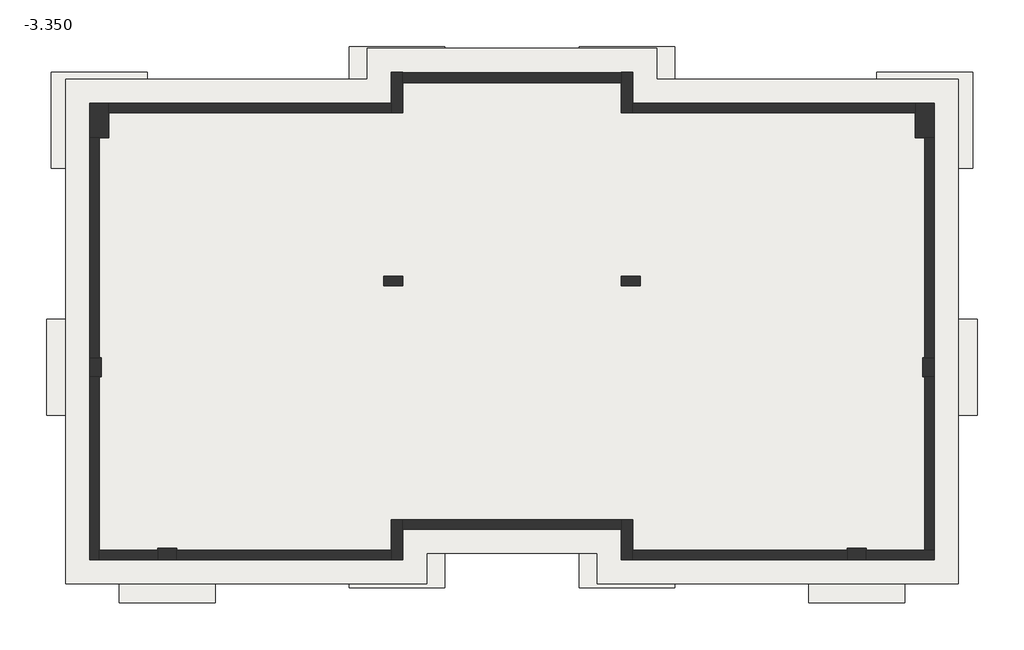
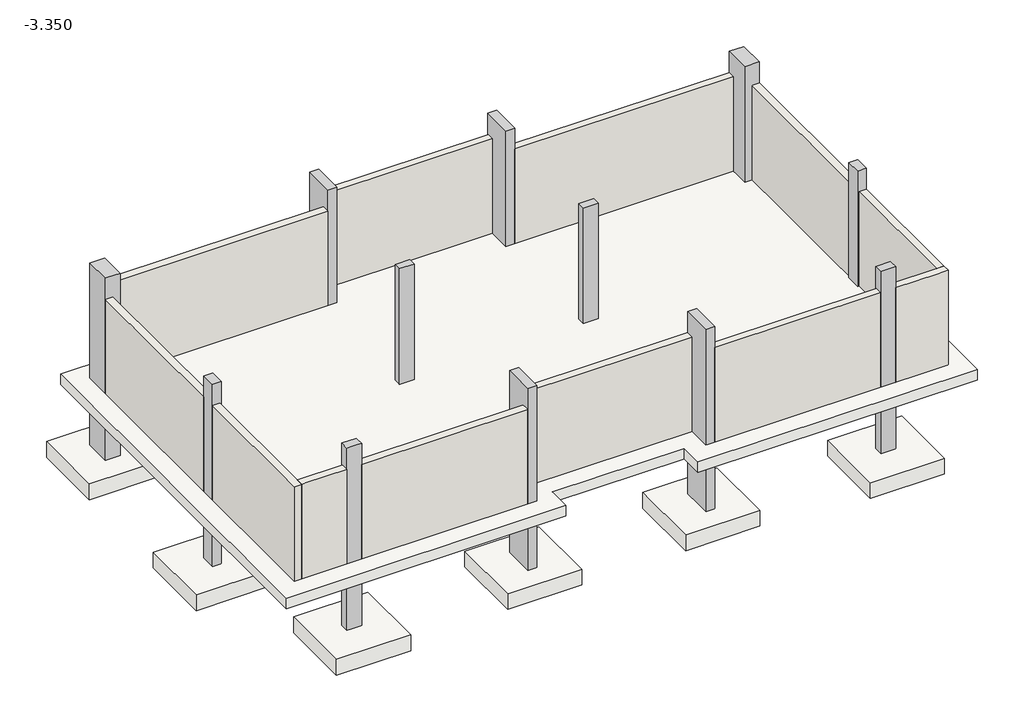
# One storey: 13 slabs, 12 columns, 12 walls.
"""IFC4 building model written with IfcOpenShell, lengths in millimetres."""

from ifc_helpers import new_model, si_unit, frame, origin, place, context, project, spatial, polyline, outline, extrude, faceted_brep, transform, mapped, element, save
from components import slab_2000mm_x_2000mm_x_450mm_d551b5b0

model = new_model("IFC4")

# Units and contexts
model_context = context("Model", 3, world=origin())
ifc_project = project(units=[si_unit("LENGTHUNIT", "METRE", prefix="MILLI")], contexts=[model_context])

# Site, building, storey
site = spatial("IfcSite", under=ifc_project)
building = spatial("IfcBuilding", under=site)
storey = spatial("IfcBuildingStorey", under=building, Name="-3.350", Elevation=-3350.0)

# Columns
placement = place(None, origin())
element("IfcColumn", 1, ObjectType="混凝土 - 矩形 - 柱 : 200 x 400mm", at=placement, inside=storey, context=model_context, shape_type="SweptSolid", body=[
    extrude(outline(polyline([(-7298.804129, 1980.2421091), (-6898.804129, 1980.2421091), (-6898.804129, 1780.2421091), (-7298.804129, 1780.2421091), (-7298.804129, 1980.2421091)])), frame((0.0, 0.0, -5250.0), z_axis=(0.0, 0.0, 1.0), x_axis=(1.0, 0.0, 0.0)), (0.0, 0.0, 1.0), 1600.0),
    extrude(outline(polyline([(-7298.804129, 1980.2421091), (-6898.804129, 1980.2421091), (-6898.804129, 1780.2421091), (-7298.804129, 1780.2421091), (-7298.804129, 1980.2421091)])), frame((0.0, 0.0, -3350.0), z_axis=(0.0, 0.0, 1.0), x_axis=(1.0, 0.0, 0.0)), (0.0, 0.0, 1.0), 3300.0),
])
element("IfcColumn", 2, ObjectType="混凝土 - 矩形 - 柱 : 200 x 400mm", at=placement, inside=storey, context=model_context, shape_type="SweptSolid", body=[
    extrude(outline(polyline([(-2338.804129, 1980.2421091), (-1938.804129, 1980.2421091), (-1938.804129, 1780.2421091), (-2338.804129, 1780.2421091), (-2338.804129, 1980.2421091)])), frame((0.0, 0.0, -5250.0), z_axis=(0.0, 0.0, 1.0), x_axis=(1.0, 0.0, 0.0)), (0.0, 0.0, 1.0), 1600.0),
    extrude(outline(polyline([(-2338.804129, 1980.2421091), (-1938.804129, 1980.2421091), (-1938.804129, 1780.2421091), (-2338.804129, 1780.2421091), (-2338.804129, 1980.2421091)])), frame((0.0, 0.0, -3350.0), z_axis=(0.0, 0.0, 1.0), x_axis=(1.0, 0.0, 0.0)), (0.0, 0.0, 1.0), 3300.0),
])
element("IfcColumn", 3, ObjectType="混凝土 - 矩形 - 柱 : 240 x 400mm", at=placement, inside=storey, context=model_context, shape_type="Brep", body=[
    faceted_brep([(-13198.804129, 280.2421091, -5250.0), (-13198.804129, -119.7578909, -5250.0), (-13438.804129, -119.7578909, -5250.0), (-13438.804129, 280.2421091, -5250.0), (-13198.804129, -119.7578909, -3650.0), (-13198.804129, 280.2421091, -3650.0), (-13438.804129, 280.2421091, -3650.0), (-13438.804129, -119.7578909, -3650.0)], [[[0, 1, 2, 3]], [[4, 5, 6, 7]], [[1, 0, 5, 4]], [[2, 1, 4, 7]], [[3, 2, 7, 6]], [[0, 3, 6, 5]]]),
    faceted_brep([(-13198.804129, 280.2421091, -50.0), (-13198.804129, -119.7578909, -50.0), (-13198.804129, -119.7578909, -3350.0), (-13198.804129, 280.2421091, -3350.0), (-13438.804129, -119.7578909, -50.0), (-13438.804129, -119.7578909, -650.0), (-13438.804129, -119.7578909, -3350.0), (-13238.804129, -119.7578909, -3350.0), (-13438.804129, 280.2421091, -50.0), (-13438.804129, 280.2421091, -650.0), (-13438.804129, 280.2421091, -3350.0), (-13238.804129, 280.2421091, -3350.0)], [[[0, 1, 2, 3]], [[1, 4, 5, 6, 7, 2]], [[4, 8, 9, 10, 6, 5]], [[8, 0, 3, 11, 10, 9]], [[4, 1, 0, 8]], [[3, 2, 7, 6, 10, 11]]]),
])
element("IfcColumn", 4, ObjectType="混凝土 - 矩形 - 柱 : 240 x 400mm", at=placement, inside=storey, context=model_context, shape_type="Brep", body=[
    faceted_brep([(4201.195871, 280.2421091, -5250.0), (4201.195871, -119.7578909, -5250.0), (3961.195871, -119.7578909, -5250.0), (3961.195871, 280.2421091, -5250.0), (4201.195871, -119.7578909, -3650.0), (4201.195871, 280.2421091, -3650.0), (3961.195871, 280.2421091, -3650.0), (3961.195871, -119.7578909, -3650.0)], [[[0, 1, 2, 3]], [[4, 5, 6, 7]], [[1, 0, 5, 4]], [[2, 1, 4, 7]], [[3, 2, 7, 6]], [[0, 3, 6, 5]]]),
    faceted_brep([(4201.195871, 280.2421091, -50.0), (4201.195871, -119.7578909, -50.0), (4201.195871, -119.7578909, -650.0), (4201.195871, -119.7578909, -3350.0), (4201.195871, 280.2421091, -3350.0), (4201.195871, 280.2421091, -650.0), (3961.195871, -119.7578909, -50.0), (3961.195871, -119.7578909, -3350.0), (4001.195871, -119.7578909, -3350.0), (3961.195871, 280.2421091, -50.0), (3961.195871, 280.2421091, -3350.0), (4001.195871, 280.2421091, -3350.0)], [[[0, 1, 2, 3, 4, 5]], [[1, 6, 7, 8, 3, 2]], [[6, 9, 10, 7]], [[9, 0, 5, 4, 11, 10]], [[6, 1, 0, 9]], [[4, 3, 8, 7, 10, 11]]]),
])
element("IfcColumn", 5, ObjectType="混凝土 - 矩形 - 柱 : 240 x 400mm", at=placement, inside=storey, context=model_context, shape_type="Brep", body=[
    faceted_brep([(-12018.804129, -3699.7578909, -5250.0), (-11618.804129, -3699.7578909, -5250.0), (-11618.804129, -3939.7578909, -5250.0), (-12018.804129, -3939.7578909, -5250.0), (-11618.804129, -3699.7578909, -3650.0), (-12018.804129, -3699.7578909, -3650.0), (-12018.804129, -3939.7578909, -3650.0), (-11618.804129, -3939.7578909, -3650.0)], [[[0, 1, 2, 3]], [[4, 5, 6, 7]], [[1, 0, 5, 4]], [[2, 1, 4, 7]], [[3, 2, 7, 6]], [[0, 3, 6, 5]]]),
    faceted_brep([(-12018.804129, -3699.7578909, -50.0), (-11618.804129, -3699.7578909, -50.0), (-11618.804129, -3699.7578909, -3350.0), (-12018.804129, -3699.7578909, -3350.0), (-11618.804129, -3939.7578909, -50.0), (-11618.804129, -3939.7578909, -650.0), (-11618.804129, -3939.7578909, -3350.0), (-11618.804129, -3739.7578909, -3350.0), (-11718.804129, -3939.7578909, -50.0), (-11918.804129, -3939.7578909, -50.0), (-12018.804129, -3939.7578909, -50.0), (-12018.804129, -3939.7578909, -650.0), (-12018.804129, -3939.7578909, -3350.0), (-12018.804129, -3739.7578909, -3350.0)], [[[0, 1, 2, 3]], [[1, 4, 5, 6, 7, 2]], [[4, 8, 9, 10, 11, 12, 6, 5]], [[10, 0, 3, 13, 12, 11]], [[1, 0, 10, 9, 8, 4]], [[3, 2, 7, 6, 12, 13]]]),
])
element("IfcColumn", 6, ObjectType="混凝土 - 矩形 - 柱 : 240 x 400mm", at=placement, inside=storey, context=model_context, shape_type="Brep", body=[
    faceted_brep([(2381.195871, -3699.7578909, -5250.0), (2781.195871, -3699.7578909, -5250.0), (2781.195871, -3939.7578909, -5250.0), (2381.195871, -3939.7578909, -5250.0), (2781.195871, -3699.7578909, -3650.0), (2381.195871, -3699.7578909, -3650.0), (2381.195871, -3939.7578909, -3650.0), (2781.195871, -3939.7578909, -3650.0)], [[[0, 1, 2, 3]], [[4, 5, 6, 7]], [[1, 0, 5, 4]], [[2, 1, 4, 7]], [[3, 2, 7, 6]], [[0, 3, 6, 5]]]),
    faceted_brep([(2381.195871, -3699.7578909, -50.0), (2781.195871, -3699.7578909, -50.0), (2781.195871, -3699.7578909, -3350.0), (2381.195871, -3699.7578909, -3350.0), (2781.195871, -3939.7578909, -50.0), (2781.195871, -3939.7578909, -650.0), (2781.195871, -3939.7578909, -3350.0), (2781.195871, -3739.7578909, -3350.0), (2381.195871, -3939.7578909, -50.0), (2381.195871, -3939.7578909, -650.0), (2381.195871, -3939.7578909, -3350.0), (2381.195871, -3739.7578909, -3350.0)], [[[0, 1, 2, 3]], [[1, 4, 5, 6, 7, 2]], [[4, 8, 9, 10, 6, 5]], [[8, 0, 3, 11, 10, 9]], [[1, 0, 8, 4]], [[3, 2, 7, 6, 10, 11]]]),
])
element("IfcColumn", 7, ObjectType="混凝土 - 矩形 - 柱 : 240 x 840mm", at=placement, inside=storey, context=model_context, shape_type="Brep", body=[
    faceted_brep([(-6898.804129, 6240.2421091, -5250.0), (-6898.804129, 5400.2421091, -5250.0), (-7138.804129, 5400.2421091, -5250.0), (-7138.804129, 6240.2421091, -5250.0), (-6898.804129, 5400.2421091, -3650.0), (-6898.804129, 6240.2421091, -3650.0), (-7138.804129, 6240.2421091, -3650.0), (-7138.804129, 5400.2421091, -3650.0)], [[[0, 1, 2, 3]], [[4, 5, 6, 7]], [[1, 0, 5, 4]], [[2, 1, 4, 7]], [[3, 2, 7, 6]], [[0, 3, 6, 5]]]),
    faceted_brep([(-6898.804129, 6240.2421091, -50.0), (-6898.804129, 5400.2421091, -50.0), (-6898.804129, 5400.2421091, -3350.0), (-6898.804129, 6027.4610605, -3350.0), (-6898.804129, 6227.4610605, -3350.0), (-6898.804129, 6240.2421091, -3350.0), (-7138.804129, 5400.2421091, -50.0), (-7138.804129, 5400.2421091, -650.0), (-7138.804129, 5400.2421091, -3350.0), (-7138.804129, 6240.2421091, -50.0), (-7138.804129, 6240.2421091, -3350.0), (-7138.804129, 5600.2421091, -3350.0)], [[[0, 1, 2, 3, 4, 5]], [[1, 6, 7, 8, 2]], [[6, 9, 10, 11, 8, 7]], [[9, 0, 5, 10]], [[1, 0, 9, 6]], [[5, 4, 3, 2, 8, 11, 10]]]),
])
element("IfcColumn", 8, ObjectType="混凝土 - 矩形 - 柱 : 240 x 840mm", at=placement, inside=storey, context=model_context, shape_type="Brep", body=[
    faceted_brep([(-2098.804129, 6240.2421091, -5250.0), (-2098.804129, 5400.2421091, -5250.0), (-2338.804129, 5400.2421091, -5250.0), (-2338.804129, 6240.2421091, -5250.0), (-2098.804129, 5400.2421091, -3650.0), (-2098.804129, 6240.2421091, -3650.0), (-2338.804129, 6240.2421091, -3650.0), (-2338.804129, 5400.2421091, -3650.0)], [[[0, 1, 2, 3]], [[4, 5, 6, 7]], [[1, 0, 5, 4]], [[2, 1, 4, 7]], [[3, 2, 7, 6]], [[0, 3, 6, 5]]]),
    faceted_brep([(-2098.804129, 6240.2421091, -50.0), (-2098.804129, 5400.2421091, -50.0), (-2098.804129, 5400.2421091, -650.0), (-2098.804129, 5400.2421091, -3350.0), (-2098.804129, 5600.2421091, -3350.0), (-2098.804129, 6240.2421091, -3350.0), (-2338.804129, 5400.2421091, -50.0), (-2338.804129, 5400.2421091, -3350.0), (-2338.804129, 5940.2421091, -50.0), (-2338.804129, 6240.2421091, -50.0), (-2338.804129, 6240.2421091, -650.0), (-2338.804129, 6240.2421091, -3350.0), (-2338.804129, 6227.4610605, -3350.0), (-2338.804129, 6027.4610605, -3350.0)], [[[0, 1, 2, 3, 4, 5]], [[1, 6, 7, 3, 2]], [[6, 8, 9, 10, 11, 12, 13, 7]], [[9, 0, 5, 11, 10]], [[1, 0, 9, 8, 6]], [[5, 4, 3, 7, 13, 12, 11]]]),
])
element("IfcColumn", 9, ObjectType="混凝土 - 矩形 - 柱 : 240 x 840mm", at=placement, inside=storey, context=model_context, shape_type="Brep", body=[
    faceted_brep([(-6898.804129, -3099.7578909, -5250.0), (-6898.804129, -3939.7578909, -5250.0), (-7138.804129, -3939.7578909, -5250.0), (-7138.804129, -3099.7578909, -5250.0), (-6898.804129, -3939.7578909, -3650.0), (-6898.804129, -3099.7578909, -3650.0), (-7138.804129, -3099.7578909, -3650.0), (-7138.804129, -3939.7578909, -3650.0)], [[[0, 1, 2, 3]], [[4, 5, 6, 7]], [[1, 0, 5, 4]], [[2, 1, 4, 7]], [[3, 2, 7, 6]], [[0, 3, 6, 5]]]),
    faceted_brep([(-6898.804129, -3099.7578909, -50.0), (-6898.804129, -3939.7578909, -50.0), (-6898.804129, -3939.7578909, -3350.0), (-6898.804129, -3299.7578909, -3350.0), (-6898.804129, -3099.7578909, -3350.0), (-6898.804129, -3099.7578909, -650.0), (-7138.804129, -3939.7578909, -50.0), (-7138.804129, -3939.7578909, -650.0), (-7138.804129, -3939.7578909, -3350.0), (-7138.804129, -3099.7578909, -50.0), (-7138.804129, -3099.7578909, -650.0), (-7138.804129, -3099.7578909, -3350.0), (-7138.804129, -3739.7578909, -3350.0)], [[[0, 1, 2, 3, 4, 5]], [[1, 6, 7, 8, 2]], [[6, 9, 10, 11, 12, 8, 7]], [[9, 0, 5, 4, 11, 10]], [[1, 0, 9, 6]], [[4, 3, 2, 8, 12, 11]]]),
])
element("IfcColumn", 10, ObjectType="混凝土 - 矩形 - 柱 : 240 x 840mm", at=placement, inside=storey, context=model_context, shape_type="Brep", body=[
    faceted_brep([(-2098.804129, -3099.7578909, -5250.0), (-2098.804129, -3939.7578909, -5250.0), (-2338.804129, -3939.7578909, -5250.0), (-2338.804129, -3099.7578909, -5250.0), (-2098.804129, -3939.7578909, -3650.0), (-2098.804129, -3099.7578909, -3650.0), (-2338.804129, -3099.7578909, -3650.0), (-2338.804129, -3939.7578909, -3650.0)], [[[0, 1, 2, 3]], [[4, 5, 6, 7]], [[1, 0, 5, 4]], [[2, 1, 4, 7]], [[3, 2, 7, 6]], [[0, 3, 6, 5]]]),
    faceted_brep([(-2098.804129, -3099.7578909, -50.0), (-2098.804129, -3639.7578909, -50.0), (-2098.804129, -3939.7578909, -50.0), (-2098.804129, -3939.7578909, -650.0), (-2098.804129, -3939.7578909, -3350.0), (-2098.804129, -3739.7578909, -3350.0), (-2098.804129, -3099.7578909, -3350.0), (-2098.804129, -3099.7578909, -650.0), (-2338.804129, -3939.7578909, -50.0), (-2338.804129, -3939.7578909, -3350.0), (-2338.804129, -3099.7578909, -50.0), (-2338.804129, -3099.7578909, -650.0), (-2338.804129, -3099.7578909, -3350.0), (-2338.804129, -3299.7578909, -3350.0)], [[[0, 1, 2, 3, 4, 5, 6, 7]], [[2, 8, 9, 4, 3]], [[8, 10, 11, 12, 13, 9]], [[10, 0, 7, 6, 12, 11]], [[2, 1, 0, 10, 8]], [[6, 5, 4, 9, 13, 12]]]),
])
element("IfcColumn", 11, ObjectType="混凝土 - 矩形 - 柱 : 400 x 720mm", at=placement, inside=storey, context=model_context, shape_type="Brep", body=[
    faceted_brep([(-13038.804129, 5600.2421091, -5250.0), (-13038.804129, 4880.2421091, -5250.0), (-13438.804129, 4880.2421091, -5250.0), (-13438.804129, 5600.2421091, -5250.0), (-13038.804129, 4880.2421091, -3650.0), (-13038.804129, 5600.2421091, -3650.0), (-13438.804129, 5600.2421091, -3650.0), (-13438.804129, 4880.2421091, -3650.0)], [[[0, 1, 2, 3]], [[4, 5, 6, 7]], [[1, 0, 5, 4]], [[2, 1, 4, 7]], [[3, 2, 7, 6]], [[0, 3, 6, 5]]]),
    faceted_brep([(-13038.804129, 5600.2421091, -3350.0), (-13038.804129, 5600.2421091, -650.0), (-13038.804129, 5600.2421091, -50.0), (-13038.804129, 5300.2421091, -50.0), (-13038.804129, 4880.2421091, -50.0), (-13038.804129, 4880.2421091, -150.0), (-13038.804129, 4880.2421091, -3350.0), (-13038.804129, 5400.2421091, -3350.0), (-13438.804129, 4880.2421091, -50.0), (-13438.804129, 4880.2421091, -650.0), (-13438.804129, 4880.2421091, -3350.0), (-13238.804129, 4880.2421091, -3350.0), (-13138.804129, 4880.2421091, -50.0), (-13438.804129, 5600.2421091, -50.0), (-13438.804129, 5600.2421091, -3350.0)], [[[0, 1, 2, 3, 4, 5, 6, 7]], [[8, 9, 10, 11, 6, 5, 4, 12]], [[8, 13, 14, 10, 9]], [[13, 2, 1, 0, 14]], [[13, 8, 12, 4, 3, 2]], [[0, 7, 6, 11, 10, 14]]]),
])
element("IfcColumn", 12, ObjectType="混凝土 - 矩形 - 柱 : 400 x 720mm", at=placement, inside=storey, context=model_context, shape_type="Brep", body=[
    faceted_brep([(4201.195871, 5600.2421091, -5250.0), (4201.195871, 4880.2421091, -5250.0), (3801.195871, 4880.2421091, -5250.0), (3801.195871, 5600.2421091, -5250.0), (4201.195871, 4880.2421091, -3650.0), (4201.195871, 5600.2421091, -3650.0), (3801.195871, 5600.2421091, -3650.0), (3801.195871, 4880.2421091, -3650.0)], [[[0, 1, 2, 3]], [[4, 5, 6, 7]], [[1, 0, 5, 4]], [[2, 1, 4, 7]], [[3, 2, 7, 6]], [[0, 3, 6, 5]]]),
    faceted_brep([(4201.195871, 5600.2421091, -50.0), (4201.195871, 4880.2421091, -50.0), (4201.195871, 4880.2421091, -650.0), (4201.195871, 4880.2421091, -3350.0), (4201.195871, 5600.2421091, -3350.0), (3801.195871, 4880.2421091, -50.0), (3801.195871, 4880.2421091, -70.0), (3801.195871, 4880.2421091, -170.0), (3801.195871, 4880.2421091, -3350.0), (4001.195871, 4880.2421091, -3350.0), (3801.195871, 5300.2421091, -50.0), (3801.195871, 5600.2421091, -50.0), (3801.195871, 5600.2421091, -650.0), (3801.195871, 5600.2421091, -3350.0), (3801.195871, 5400.2421091, -3350.0)], [[[0, 1, 2, 3, 4]], [[1, 5, 6, 7, 8, 9, 3, 2]], [[5, 10, 11, 12, 13, 14, 8, 7, 6]], [[11, 0, 4, 13, 12]], [[1, 0, 11, 10, 5]], [[4, 3, 9, 8, 14, 13]]]),
])

# Slabs
element("IfcSlab", 13, ObjectType="常规 - 300mm", at=placement, inside=storey, context=model_context, shape_type="SweptSolid", body=[
    extrude(outline(polyline([(-13938.804129, 6100.2421091), (-7638.804129, 6100.2421091), (-7638.804129, 6740.2421091), (-1598.804129, 6740.2421091), (-1598.804129, 6100.2421091), (4701.195871, 6100.2421091), (4701.195871, -4439.7578909), (-2838.804129, -4439.7578909), (-2838.804129, -3799.7578909), (-6398.804129, -3799.7578909), (-6398.804129, -4439.7578909), (-13938.804129, -4439.7578909), (-13938.804129, 6100.2421091)])), frame((0.0, 0.0, -3650.0), z_axis=(0.0, 0.0, 1.0), x_axis=(1.0, 0.0, 0.0)), (0.0, 0.0, 1.0), 300.0),
])
slab_2000mm_x_2000mm_x_450mm_shape = slab_2000mm_x_2000mm_x_450mm_d551b5b0(model_context)
element("IfcSlab", 14, ObjectType="独立基础 : 2000mm x 2000mm x 450mm", at=placement, inside=storey, context=model_context, shape_type="MappedRepresentation", body=[
    mapped(slab_2000mm_x_2000mm_x_450mm_shape, transform((-13238.804129, 5240.2421091, -5250.0), x_axis=(1.0, 0.0, 0.0), y_axis=(0.0, 1.0, 0.0), z_axis=(0.0, 0.0, 1.0))),
])
element("IfcSlab", 15, ObjectType="独立基础 : 2000mm x 2000mm x 450mm", at=placement, inside=storey, context=model_context, shape_type="MappedRepresentation", body=[
    mapped(slab_2000mm_x_2000mm_x_450mm_shape, transform((-7018.804129, 5780.2421091, -5250.0), x_axis=(1.0, 0.0, 0.0), y_axis=(0.0, 1.0, 0.0), z_axis=(0.0, 0.0, 1.0))),
])
element("IfcSlab", 16, ObjectType="独立基础 : 2000mm x 2000mm x 450mm", at=placement, inside=storey, context=model_context, shape_type="MappedRepresentation", body=[
    mapped(slab_2000mm_x_2000mm_x_450mm_shape, transform((-2218.804129, 5780.2421091, -5250.0), x_axis=(1.0, 0.0, 0.0), y_axis=(0.0, 1.0, 0.0), z_axis=(0.0, 0.0, 1.0))),
])
element("IfcSlab", 17, ObjectType="独立基础 : 2000mm x 2000mm x 450mm", at=placement, inside=storey, context=model_context, shape_type="MappedRepresentation", body=[
    mapped(slab_2000mm_x_2000mm_x_450mm_shape, transform((4001.195871, 5240.2421091, -5250.0), x_axis=(1.0, 0.0, 0.0), y_axis=(0.0, 1.0, 0.0), z_axis=(0.0, 0.0, 1.0))),
])
element("IfcSlab", 18, ObjectType="独立基础 : 2000mm x 2000mm x 450mm", at=placement, inside=storey, context=model_context, shape_type="MappedRepresentation", body=[
    mapped(slab_2000mm_x_2000mm_x_450mm_shape, transform((4101.195871, 80.2421091, -5250.0), x_axis=(1.0, 0.0, 0.0), y_axis=(0.0, 1.0, 0.0), z_axis=(0.0, 0.0, 1.0))),
])
element("IfcSlab", 19, ObjectType="独立基础 : 2000mm x 2000mm x 450mm", at=placement, inside=storey, context=model_context, shape_type="MappedRepresentation", body=[
    mapped(slab_2000mm_x_2000mm_x_450mm_shape, transform((2581.195871, -3839.7578909, -5250.0), x_axis=(1.0, 0.0, 0.0), y_axis=(0.0, 1.0, 0.0), z_axis=(0.0, 0.0, 1.0))),
])
element("IfcSlab", 20, ObjectType="独立基础 : 2000mm x 2000mm x 450mm", at=placement, inside=storey, context=model_context, shape_type="MappedRepresentation", body=[
    mapped(slab_2000mm_x_2000mm_x_450mm_shape, transform((-2218.804129, -3519.7578909, -5250.0), x_axis=(1.0, 0.0, 0.0), y_axis=(0.0, 1.0, 0.0), z_axis=(0.0, 0.0, 1.0))),
])
element("IfcSlab", 21, ObjectType="独立基础 : 2000mm x 2000mm x 450mm", at=placement, inside=storey, context=model_context, shape_type="MappedRepresentation", body=[
    mapped(slab_2000mm_x_2000mm_x_450mm_shape, transform((-7018.804129, -3519.7578909, -5250.0), x_axis=(1.0, 0.0, 0.0), y_axis=(0.0, 1.0, 0.0), z_axis=(0.0, 0.0, 1.0))),
])
element("IfcSlab", 22, ObjectType="独立基础 : 2000mm x 2000mm x 450mm", at=placement, inside=storey, context=model_context, shape_type="MappedRepresentation", body=[
    mapped(slab_2000mm_x_2000mm_x_450mm_shape, transform((-11818.804129, -3839.7578909, -5250.0), x_axis=(1.0, 0.0, 0.0), y_axis=(0.0, 1.0, 0.0), z_axis=(0.0, 0.0, 1.0))),
])
element("IfcSlab", 23, ObjectType="独立基础 : 2000mm x 2000mm x 450mm", at=placement, inside=storey, context=model_context, shape_type="MappedRepresentation", body=[
    mapped(slab_2000mm_x_2000mm_x_450mm_shape, transform((-13338.804129, 80.2421091, -5250.0), x_axis=(1.0, 0.0, 0.0), y_axis=(0.0, 1.0, 0.0), z_axis=(0.0, 0.0, 1.0))),
])
element("IfcSlab", 24, ObjectType="独立基础 : 2000mm x 2000mm x 450mm", at=placement, inside=storey, context=model_context, shape_type="MappedRepresentation", body=[
    mapped(slab_2000mm_x_2000mm_x_450mm_shape, transform((-7098.804129, 1880.2421091, -5250.0), x_axis=(1.0, 0.0, 0.0), y_axis=(0.0, 1.0, 0.0), z_axis=(0.0, 0.0, 1.0))),
])
element("IfcSlab", 25, ObjectType="独立基础 : 2000mm x 2000mm x 450mm", at=placement, inside=storey, context=model_context, shape_type="MappedRepresentation", body=[
    mapped(slab_2000mm_x_2000mm_x_450mm_shape, transform((-2138.804129, 1880.2421091, -5250.0), x_axis=(1.0, 0.0, 0.0), y_axis=(0.0, 1.0, 0.0), z_axis=(0.0, 0.0, 1.0))),
])

# Walls
element("IfcWall", 26, ObjectType="常规 - 200mm", at=placement, inside=storey, context=model_context, shape_type="SweptSolid", body=[
    extrude(outline(polyline([(-13438.804129, 280.2421091), (-13438.804129, 4880.2421091), (-13238.804129, 4880.2421091), (-13238.804129, 280.2421091), (-13438.804129, 280.2421091)])), frame((0.0, 0.0, -3350.0), z_axis=(0.0, 0.0, 1.0), x_axis=(1.0, 0.0, 0.0)), (0.0, 0.0, 1.0), 2700.0),
])
element("IfcWall", 27, ObjectType="常规 - 200mm", at=placement, inside=storey, context=model_context, shape_type="Brep", body=[
    faceted_brep([(-13438.804129, -119.7578909, -3350.0), (-13438.804129, -3939.7578909, -3350.0), (-13438.804129, -3939.7578909, -650.0), (-13438.804129, -119.7578909, -650.0), (-13238.804129, -119.7578909, -3350.0), (-13238.804129, -119.7578909, -650.0), (-13238.804129, -3739.7578909, -650.0), (-13238.804129, -3939.7578909, -650.0), (-13238.804129, -3939.7578909, -3350.0), (-13238.804129, -3739.7578909, -3350.0)], [[[0, 1, 2, 3]], [[4, 5, 6, 7, 8, 9]], [[1, 0, 4, 9, 8]], [[2, 1, 8, 7]], [[3, 2, 7, 6, 5]], [[0, 3, 5, 4]]]),
])
element("IfcWall", 28, ObjectType="常规 - 200mm", at=placement, inside=storey, context=model_context, shape_type="Brep", body=[
    faceted_brep([(-13238.804129, -3939.7578909, -3350.0), (-12018.804129, -3939.7578909, -3350.0), (-12018.804129, -3939.7578909, -650.0), (-13138.804129, -3939.7578909, -650.0), (-13238.804129, -3939.7578909, -650.0), (-13238.804129, -3739.7578909, -3350.0), (-13238.804129, -3739.7578909, -650.0), (-12018.804129, -3739.7578909, -650.0), (-12018.804129, -3739.7578909, -3350.0)], [[[0, 1, 2, 3, 4]], [[5, 6, 7, 8]], [[1, 0, 5, 8]], [[2, 1, 8, 7]], [[4, 3, 2, 7, 6]], [[0, 4, 6, 5]]]),
])
element("IfcWall", 29, ObjectType="常规 - 200mm", at=placement, inside=storey, context=model_context, shape_type="SweptSolid", body=[
    extrude(outline(polyline([(-7138.804129, -3939.7578909), (-11618.804129, -3939.7578909), (-11618.804129, -3739.7578909), (-7138.804129, -3739.7578909), (-7138.804129, -3939.7578909)])), frame((0.0, 0.0, -3350.0), z_axis=(0.0, 0.0, 1.0), x_axis=(1.0, 0.0, 0.0)), (0.0, 0.0, 1.0), 2700.0),
])
element("IfcWall", 30, ObjectType="常规 - 200mm", at=placement, inside=storey, context=model_context, shape_type="SweptSolid", body=[
    extrude(outline(polyline([(-2338.804129, -3299.7578909), (-6898.804129, -3299.7578909), (-6898.804129, -3099.7578909), (-2338.804129, -3099.7578909), (-2338.804129, -3299.7578909)])), frame((0.0, 0.0, -3350.0), z_axis=(0.0, 0.0, 1.0), x_axis=(1.0, 0.0, 0.0)), (0.0, 0.0, 1.0), 2700.0),
])
element("IfcWall", 31, ObjectType="常规 - 200mm", at=placement, inside=storey, context=model_context, shape_type="SweptSolid", body=[
    extrude(outline(polyline([(2381.195871, -3939.7578909), (-2098.804129, -3939.7578909), (-2098.804129, -3739.7578909), (2381.195871, -3739.7578909), (2381.195871, -3939.7578909)])), frame((0.0, 0.0, -3350.0), z_axis=(0.0, 0.0, 1.0), x_axis=(1.0, 0.0, 0.0)), (0.0, 0.0, 1.0), 2700.0),
])
element("IfcWall", 32, ObjectType="常规 - 200mm", at=placement, inside=storey, context=model_context, shape_type="Brep", body=[
    faceted_brep([(2781.195871, -3939.7578909, -3350.0), (4201.195871, -3939.7578909, -3350.0), (4201.195871, -3939.7578909, -650.0), (3901.195871, -3939.7578909, -650.0), (2781.195871, -3939.7578909, -650.0), (2781.195871, -3739.7578909, -3350.0), (2781.195871, -3739.7578909, -650.0), (4001.195871, -3739.7578909, -650.0), (4201.195871, -3739.7578909, -650.0), (4201.195871, -3739.7578909, -3350.0), (4001.195871, -3739.7578909, -3350.0)], [[[0, 1, 2, 3, 4]], [[5, 6, 7, 8, 9, 10]], [[1, 0, 5, 10, 9]], [[2, 1, 9, 8]], [[4, 3, 2, 8, 7, 6]], [[0, 4, 6, 5]]]),
])
element("IfcWall", 33, ObjectType="常规 - 200mm", at=placement, inside=storey, context=model_context, shape_type="SweptSolid", body=[
    extrude(outline(polyline([(4201.195871, -119.7578909), (4201.195871, -3739.7578909), (4001.195871, -3739.7578909), (4001.195871, -119.7578909), (4201.195871, -119.7578909)])), frame((0.0, 0.0, -3350.0), z_axis=(0.0, 0.0, 1.0), x_axis=(1.0, 0.0, 0.0)), (0.0, 0.0, 1.0), 2700.0),
])
element("IfcWall", 34, ObjectType="常规 - 200mm", at=placement, inside=storey, context=model_context, shape_type="SweptSolid", body=[
    extrude(outline(polyline([(4201.195871, 4880.2421091), (4201.195871, 280.2421091), (4001.195871, 280.2421091), (4001.195871, 4880.2421091), (4201.195871, 4880.2421091)])), frame((0.0, 0.0, -3350.0), z_axis=(0.0, 0.0, 1.0), x_axis=(1.0, 0.0, 0.0)), (0.0, 0.0, 1.0), 2700.0),
])
element("IfcWall", 35, ObjectType="常规 - 200mm", at=placement, inside=storey, context=model_context, shape_type="Brep", body=[
    faceted_brep([(3801.195871, 5600.2421091, -3350.0), (-2098.804129, 5600.2421091, -3350.0), (-2098.804129, 5600.2421091, -650.0), (3801.195871, 5600.2421091, -650.0), (3801.195871, 5400.2421091, -3350.0), (3801.195871, 5400.2421091, -650.0), (-2038.804129, 5400.2421091, -650.0), (-2098.804129, 5400.2421091, -650.0), (-2098.804129, 5400.2421091, -3350.0)], [[[0, 1, 2, 3]], [[4, 5, 6, 7, 8]], [[1, 0, 4, 8]], [[2, 1, 8, 7]], [[3, 2, 7, 6, 5]], [[0, 3, 5, 4]]]),
])
element("IfcWall", 36, ObjectType="常规 - 200mm", at=placement, inside=storey, context=model_context, shape_type="SweptSolid", body=[
    extrude(outline(polyline([(-6898.804129, 6227.4610605), (-2338.804129, 6227.4610605), (-2338.804129, 6027.4610605), (-6898.804129, 6027.4610605), (-6898.804129, 6227.4610605)])), frame((0.0, 0.0, -3350.0), z_axis=(0.0, 0.0, 1.0), x_axis=(1.0, 0.0, 0.0)), (0.0, 0.0, 1.0), 2700.0),
])
element("IfcWall", 37, ObjectType="常规 - 200mm", at=placement, inside=storey, context=model_context, shape_type="SweptSolid", body=[
    extrude(outline(polyline([(-13038.804129, 5600.2421091), (-7138.804129, 5600.2421091), (-7138.804129, 5400.2421091), (-13038.804129, 5400.2421091), (-13038.804129, 5600.2421091)])), frame((0.0, 0.0, -3350.0), z_axis=(0.0, 0.0, 1.0), x_axis=(1.0, 0.0, 0.0)), (0.0, 0.0, 1.0), 2700.0),
])

save(model, "model.ifc")
